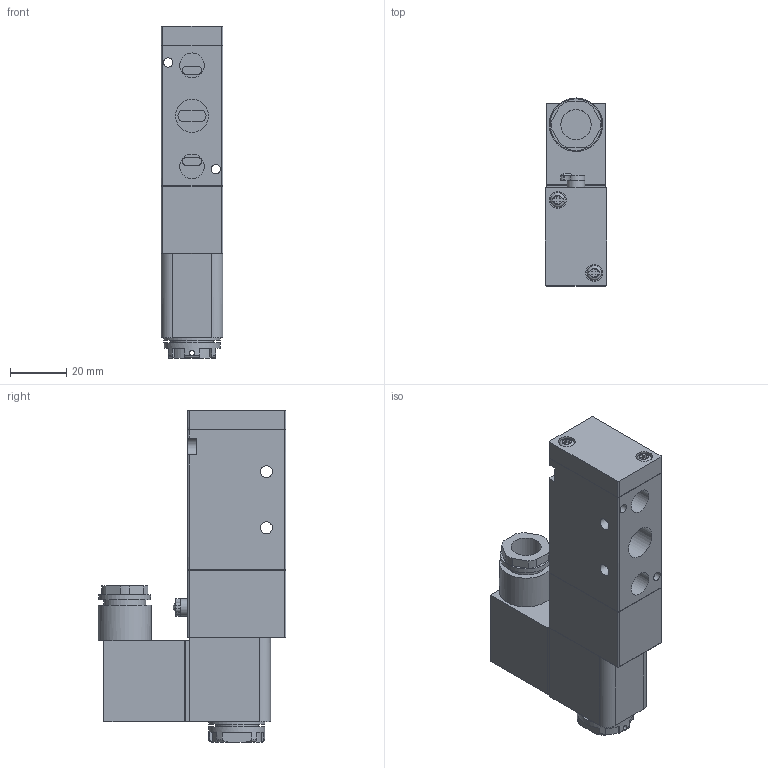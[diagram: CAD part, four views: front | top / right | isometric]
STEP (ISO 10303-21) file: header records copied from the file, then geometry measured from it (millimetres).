
FILE_DESCRIPTION(/* description */ (''),/* implementation_level */ '2;1');
FILE_NAME(/* name */ 'X:\Zeichnungen\3D\Basic-Line\Ventile\86-MV-5-14-511-M42.stp',/* time_stamp */ '2015-02-11T11:12:44+01:00',/* author */ ('Tschernatsch'),/* organization */ (''),/* preprocessor_version */ 'ST-DEVELOPER v15.2',/* originating_system */ 'Autodesk Inventor 2014',/* authorisation */ '');
FILE_SCHEMA (('AUTOMOTIVE_DESIGN { 1 0 10303 214 3 1 1 }'));
Length unit declared in the file: millimetre
Products named in the file (1): 5V210-08-S-DC24-Ôð+-+
Bounding box: 22 x 66.95 x 118.25 mm (x, y, z)
Volume: 99522.4 mm3; surface area: 23346 mm2
Topology: 1 solids, 1 shells, 292 faces, 757 edges, 489 vertices
Faces by surface type: plane 219, cylinder 62, torus 9, cone 2
Full cylindrical faces by diameter (mm): 1.8 x1, 3.3 x2, 4.3 x2, 5.2 x4, 6 x3, 6.25 x1, 7 x1, 8.8 x2, 10.8 x1, 11.8 x3, 15 x1, 15.2 x1, 18.4 x1, 19 x1, 20 x2
Entity records: 8861 total; most frequent: CARTESIAN_POINT 1685, DIRECTION 1501, ORIENTED_EDGE 1440, EDGE_CURVE 720, AXIS2_PLACEMENT_3D 513, VERTEX_POINT 481, LINE 475, VECTOR 475
